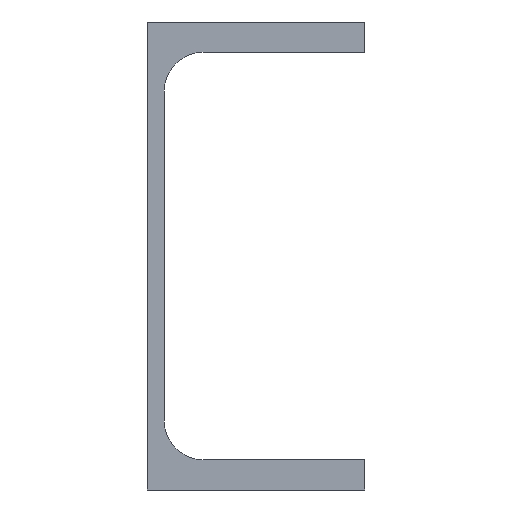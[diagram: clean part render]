
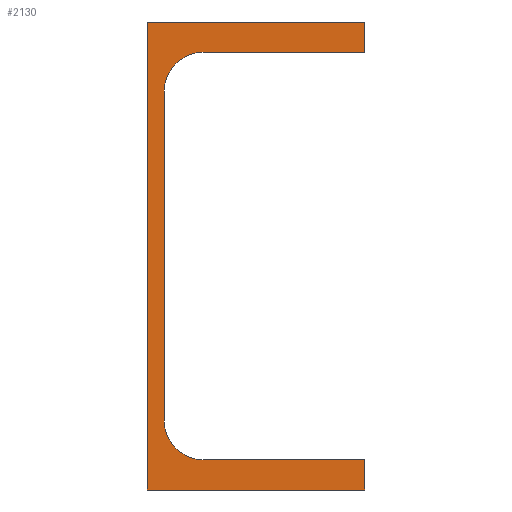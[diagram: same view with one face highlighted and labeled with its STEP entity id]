
A CAD part, front view. The second image highlights one B-rep face of the part: STEP entity #2130.
In plain terms, the highlighted planar face has unit normal (0, -1, 0).
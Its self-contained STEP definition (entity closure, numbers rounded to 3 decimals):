
#38 = LINE ( 'NONE', #378, #3108 ) ;
#52 = CARTESIAN_POINT ( 'NONE',  ( 9275., 1915., 3832. ) ) ;
#57 = CARTESIAN_POINT ( 'NONE',  ( 9275., 1915., 3701. ) ) ;
#88 = CARTESIAN_POINT ( 'NONE',  ( 9275., 1915., 3823. ) ) ;
#115 = DIRECTION ( 'NONE',  ( 0., 0., -1. ) ) ;
#149 = EDGE_CURVE ( 'NONE', #1571, #2325, #3811, .T. ) ;
#186 = EDGE_CURVE ( 'NONE', #3308, #343, #1061, .T. ) ;
#189 = CARTESIAN_POINT ( 'NONE',  ( 9215., 1915., 3713. ) ) ;
#233 = VECTOR ( 'NONE', #3808, 1000. ) ;
#241 = PLANE ( 'NONE',  #2976 ) ;
#257 = ORIENTED_EDGE ( 'NONE', *, *, #336, .F. ) ;
#336 = EDGE_CURVE ( 'NONE', #343, #1571, #3670, .T. ) ;
#343 = VERTEX_POINT ( 'NONE', #1066 ) ;
#374 = VECTOR ( 'NONE', #1626, 1000. ) ;
#378 = CARTESIAN_POINT ( 'NONE',  ( 9275., 1915., 3823. ) ) ;
#468 = EDGE_CURVE ( 'NONE', #2004, #4222, #1015, .T. ) ;
#503 = EDGE_CURVE ( 'NONE', #2325, #4203, #3924, .T. ) ;
#513 = ORIENTED_EDGE ( 'NONE', *, *, #503, .F. ) ;
#684 = EDGE_CURVE ( 'NONE', #4222, #788, #927, .T. ) ;
#788 = VERTEX_POINT ( 'NONE', #3406 ) ;
#856 = VECTOR ( 'NONE', #1384, 1000. ) ;
#879 = DIRECTION ( 'NONE',  ( 0., 0., -1. ) ) ;
#886 = VERTEX_POINT ( 'NONE', #3979 ) ;
#927 = CIRCLE ( 'NONE', #2856, 12. ) ;
#940 = ORIENTED_EDGE ( 'NONE', *, *, #3359, .F. ) ;
#974 = CARTESIAN_POINT ( 'NONE',  ( 9227., 1915., 3823. ) ) ;
#1007 = ORIENTED_EDGE ( 'NONE', *, *, #149, .F. ) ;
#1015 = LINE ( 'NONE', #974, #374 ) ;
#1061 = CIRCLE ( 'NONE', #1264, 12. ) ;
#1066 = CARTESIAN_POINT ( 'NONE',  ( 9227., 1915., 3701. ) ) ;
#1075 = CARTESIAN_POINT ( 'NONE',  ( 9210., 1915., 3832. ) ) ;
#1159 = ORIENTED_EDGE ( 'NONE', *, *, #186, .F. ) ;
#1264 = AXIS2_PLACEMENT_3D ( 'NONE', #2436, #3721, #3396 ) ;
#1301 = ORIENTED_EDGE ( 'NONE', *, *, #468, .F. ) ;
#1375 = LINE ( 'NONE', #1075, #233 ) ;
#1384 = DIRECTION ( 'NONE',  ( 1., 0., 0. ) ) ;
#1389 = EDGE_CURVE ( 'NONE', #788, #3308, #2149, .T. ) ;
#1523 = ORIENTED_EDGE ( 'NONE', *, *, #3820, .F. ) ;
#1555 = DIRECTION ( 'NONE',  ( 0., 0., -1. ) ) ;
#1571 = VERTEX_POINT ( 'NONE', #3964 ) ;
#1616 = VECTOR ( 'NONE', #3115, 1000. ) ;
#1626 = DIRECTION ( 'NONE',  ( -1., 0., 0. ) ) ;
#1651 = DIRECTION ( 'NONE',  ( 0., 0., -1. ) ) ;
#1708 = EDGE_CURVE ( 'NONE', #2046, #2004, #38, .T. ) ;
#1729 = CARTESIAN_POINT ( 'NONE',  ( 9227., 1915., 3811. ) ) ;
#1792 = CARTESIAN_POINT ( 'NONE',  ( 9275., 1915., 3832. ) ) ;
#1808 = ORIENTED_EDGE ( 'NONE', *, *, #1708, .F. ) ;
#1850 = CARTESIAN_POINT ( 'NONE',  ( 9227., 1915., 3823. ) ) ;
#1862 = FACE_OUTER_BOUND ( 'NONE', #2366, .T. ) ;
#2004 = VERTEX_POINT ( 'NONE', #88 ) ;
#2046 = VERTEX_POINT ( 'NONE', #1792 ) ;
#2130 = ADVANCED_FACE ( 'NONE', ( #1862 ), #241, .T. ) ;
#2149 = LINE ( 'NONE', #3830, #2709 ) ;
#2325 = VERTEX_POINT ( 'NONE', #4213 ) ;
#2331 = CARTESIAN_POINT ( 'NONE',  ( 9210., 1915., 3692. ) ) ;
#2355 = LINE ( 'NONE', #52, #3876 ) ;
#2366 = EDGE_LOOP ( 'NONE', ( #1523, #940, #513, #1007, #257, #1159, #2525, #2412, #1301, #1808 ) ) ;
#2412 = ORIENTED_EDGE ( 'NONE', *, *, #684, .F. ) ;
#2416 = CARTESIAN_POINT ( 'NONE',  ( 9275., 1915., 3692. ) ) ;
#2436 = CARTESIAN_POINT ( 'NONE',  ( 9227., 1915., 3713. ) ) ;
#2525 = ORIENTED_EDGE ( 'NONE', *, *, #1389, .F. ) ;
#2709 = VECTOR ( 'NONE', #879, 1000. ) ;
#2783 = VECTOR ( 'NONE', #4197, 1000. ) ;
#2807 = DIRECTION ( 'NONE',  ( 0., -1., 0. ) ) ;
#2856 = AXIS2_PLACEMENT_3D ( 'NONE', #1729, #3340, #115 ) ;
#2976 = AXIS2_PLACEMENT_3D ( 'NONE', #3469, #2807, #1555 ) ;
#3108 = VECTOR ( 'NONE', #1651, 1000. ) ;
#3115 = DIRECTION ( 'NONE',  ( 0., 0., -1. ) ) ;
#3295 = DIRECTION ( 'NONE',  ( 1., 0., 0. ) ) ;
#3308 = VERTEX_POINT ( 'NONE', #189 ) ;
#3340 = DIRECTION ( 'NONE',  ( 0., -1., 0. ) ) ;
#3359 = EDGE_CURVE ( 'NONE', #4203, #886, #1375, .T. ) ;
#3396 = DIRECTION ( 'NONE',  ( 0., 0., -1. ) ) ;
#3406 = CARTESIAN_POINT ( 'NONE',  ( 9215., 1915., 3811. ) ) ;
#3469 = CARTESIAN_POINT ( 'NONE',  ( 9227., 1915., 3713. ) ) ;
#3670 = LINE ( 'NONE', #57, #856 ) ;
#3721 = DIRECTION ( 'NONE',  ( 0., -1., 0. ) ) ;
#3808 = DIRECTION ( 'NONE',  ( 0., 0., 1. ) ) ;
#3811 = LINE ( 'NONE', #2416, #1616 ) ;
#3820 = EDGE_CURVE ( 'NONE', #886, #2046, #2355, .T. ) ;
#3830 = CARTESIAN_POINT ( 'NONE',  ( 9215., 1915., 3713. ) ) ;
#3876 = VECTOR ( 'NONE', #3295, 1000. ) ;
#3924 = LINE ( 'NONE', #2331, #2783 ) ;
#3964 = CARTESIAN_POINT ( 'NONE',  ( 9275., 1915., 3701. ) ) ;
#3979 = CARTESIAN_POINT ( 'NONE',  ( 9210., 1915., 3832. ) ) ;
#4120 = CARTESIAN_POINT ( 'NONE',  ( 9210., 1915., 3692. ) ) ;
#4197 = DIRECTION ( 'NONE',  ( -1., 0., 0. ) ) ;
#4203 = VERTEX_POINT ( 'NONE', #4120 ) ;
#4213 = CARTESIAN_POINT ( 'NONE',  ( 9275., 1915., 3692. ) ) ;
#4222 = VERTEX_POINT ( 'NONE', #1850 ) ;
